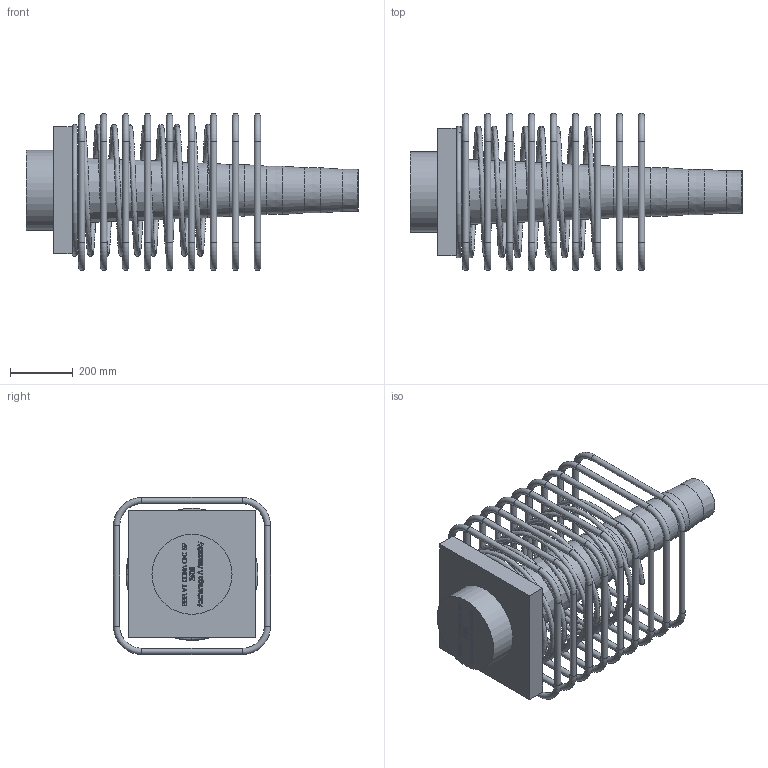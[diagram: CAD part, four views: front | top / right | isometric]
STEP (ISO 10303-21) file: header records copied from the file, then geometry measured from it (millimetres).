
FILE_DESCRIPTION(/* description */ (''),/* implementation_level */ '2;1');
FILE_NAME(/* name */ 'Z:\04 Publications\05 Give-out\BBR\6_3D_Models\BBR VT CONA CMI\BBR VT CONA CMI SP\02506\BBR VT CONA CMI SP 2506_Anchorage A Assembly_CS-34,28.stp',/* time_stamp */ '2017-05-09T09:55:22+02:00',/* author */ ('IP'),/* organization */ (''),/* preprocessor_version */ 'ST-DEVELOPER v16.1',/* originating_system */ 'Autodesk Inventor 2016',/* authorisation */ '');
FILE_SCHEMA (('AUTOMOTIVE_DESIGN { 1 0 10303 214 3 1 1 }'));
Length unit declared in the file: millimetre
Products named in the file (1): BBR VT CONA CMI SP 2506_Anchorage A Assembly_CS-34,28
Bounding box: 1057.07 x 500 x 500 mm (x, y, z)
Volume: 42774211.7 mm3; surface area: 2574762.7 mm2
Topology: 11 solids, 11 shells, 703 faces, 1852 edges, 1208 vertices
Faces by surface type: plane 311, bspline 306, torus 43, cylinder 37, cone 6
Full cylindrical faces by diameter (mm): 20 x36, 255 x1
Entity records: 27432 total; most frequent: CARTESIAN_POINT 11695, ORIENTED_EDGE 3532, DIRECTION 2042, EDGE_CURVE 1765, VERTEX_POINT 1206, LINE 1058, VECTOR 1058, EDGE_LOOP 846
